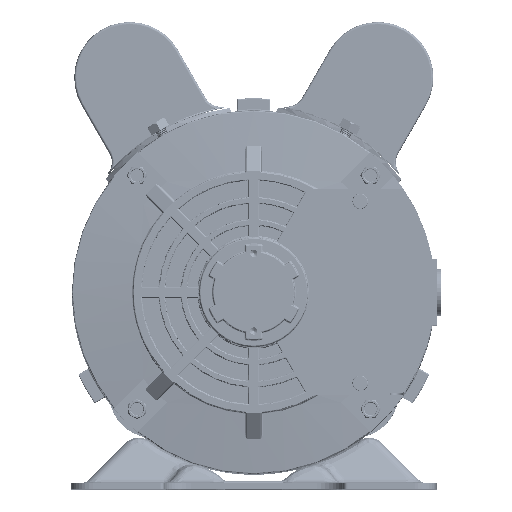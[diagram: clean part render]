
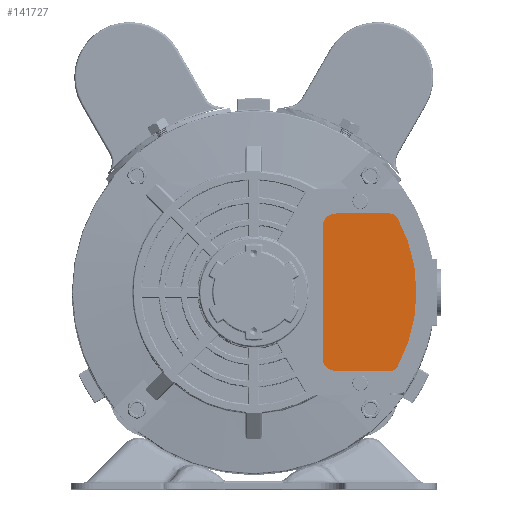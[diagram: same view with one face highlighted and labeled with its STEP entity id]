
A CAD part, top view. The second image highlights one B-rep face of the part: STEP entity #141727.
In plain terms, the highlighted planar face has unit normal (0, 0, 1).
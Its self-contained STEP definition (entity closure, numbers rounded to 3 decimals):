
#1089 = DIRECTION ( 'NONE',  ( 0., -1., 0. ) ) ;
#1537 = CARTESIAN_POINT ( 'NONE',  ( 2.345, -38.899, 113.2 ) ) ;
#3224 = FACE_OUTER_BOUND ( 'NONE', #71267, .T. ) ;
#5866 = AXIS2_PLACEMENT_3D ( 'NONE', #81454, #136127, #13421 ) ;
#13421 = DIRECTION ( 'NONE',  ( 0., -1., 0. ) ) ;
#18088 = LINE ( 'NONE', #72706, #154235 ) ;
#20141 = CIRCLE ( 'NONE', #120261, 70. ) ;
#23159 = CARTESIAN_POINT ( 'NONE',  ( 2.345, -44.899, 113.2 ) ) ;
#26403 = ORIENTED_EDGE ( 'NONE', *, *, #88698, .T. ) ;
#29584 = CARTESIAN_POINT ( 'NONE',  ( 2.345, 26.101, 113.2 ) ) ;
#31638 = CARTESIAN_POINT ( 'NONE',  ( 32.723, -40.899, 113.2 ) ) ;
#38695 = DIRECTION ( 'NONE',  ( 0., -1., 0. ) ) ;
#44439 = DIRECTION ( 'NONE',  ( 1., 0., 0. ) ) ;
#50807 = ORIENTED_EDGE ( 'NONE', *, *, #154609, .T. ) ;
#52661 = CIRCLE ( 'NONE', #152795, 6. ) ;
#56391 = VECTOR ( 'NONE', #84206, 1000. ) ;
#57868 = PLANE ( 'NONE',  #155817 ) ;
#59806 = VERTEX_POINT ( 'NONE', #90246 ) ;
#60726 = CARTESIAN_POINT ( 'NONE',  ( 8.345, -38.899, 113.2 ) ) ;
#69143 = CIRCLE ( 'NONE', #169259, 4. ) ;
#69186 = CARTESIAN_POINT ( 'NONE',  ( 8.345, 20.101, 113.2 ) ) ;
#69314 = AXIS2_PLACEMENT_3D ( 'NONE', #60726, #115379, #169969 ) ;
#71267 = EDGE_LOOP ( 'NONE', ( #26403, #79006, #78004, #156254, #135736, #74582, #135364, #50807 ) ) ;
#72706 = CARTESIAN_POINT ( 'NONE',  ( 35.055, 26.101, 113.2 ) ) ;
#73080 = VERTEX_POINT ( 'NONE', #123575 ) ;
#74582 = ORIENTED_EDGE ( 'NONE', *, *, #99331, .T. ) ;
#77781 = DIRECTION ( 'NONE',  ( 1., 0., 0. ) ) ;
#78004 = ORIENTED_EDGE ( 'NONE', *, *, #114159, .T. ) ;
#79006 = ORIENTED_EDGE ( 'NONE', *, *, #97005, .T. ) ;
#81454 = CARTESIAN_POINT ( 'NONE',  ( 32.723, 22.101, 113.2 ) ) ;
#82353 = CARTESIAN_POINT ( 'NONE',  ( 8.345, -44.899, 113.2 ) ) ;
#83062 = CIRCLE ( 'NONE', #5866, 4. ) ;
#84206 = DIRECTION ( 'NONE',  ( 0., -1., 0. ) ) ;
#84969 = EDGE_CURVE ( 'NONE', #73080, #160115, #152331, .T. ) ;
#86267 = DIRECTION ( 'NONE',  ( 0., 0., 1. ) ) ;
#88698 = EDGE_CURVE ( 'NONE', #171841, #113087, #145886, .T. ) ;
#90246 = CARTESIAN_POINT ( 'NONE',  ( 36.238, -42.809, 113.2 ) ) ;
#91219 = EDGE_CURVE ( 'NONE', #103861, #97186, #18088, .T. ) ;
#97005 = EDGE_CURVE ( 'NONE', #113087, #59806, #69143, .T. ) ;
#97186 = VERTEX_POINT ( 'NONE', #120235 ) ;
#99331 = EDGE_CURVE ( 'NONE', #97186, #73080, #52661, .T. ) ;
#103861 = VERTEX_POINT ( 'NONE', #143051 ) ;
#106776 = CARTESIAN_POINT ( 'NONE',  ( -25.275, -9.399, 113.2 ) ) ;
#112539 = CARTESIAN_POINT ( 'NONE',  ( -25.275, -9.399, 113.2 ) ) ;
#113087 = VERTEX_POINT ( 'NONE', #176586 ) ;
#114159 = EDGE_CURVE ( 'NONE', #59806, #167007, #20141, .T. ) ;
#115379 = DIRECTION ( 'NONE',  ( 0., 0., 1. ) ) ;
#116841 = CARTESIAN_POINT ( 'NONE',  ( 36.238, 24.01, 113.2 ) ) ;
#119840 = EDGE_CURVE ( 'NONE', #167007, #103861, #83062, .T. ) ;
#120235 = CARTESIAN_POINT ( 'NONE',  ( 8.345, 26.101, 113.2 ) ) ;
#120261 = AXIS2_PLACEMENT_3D ( 'NONE', #106776, #161396, #38695 ) ;
#123575 = CARTESIAN_POINT ( 'NONE',  ( 2.345, 20.101, 113.2 ) ) ;
#123839 = DIRECTION ( 'NONE',  ( 0., 0., 1. ) ) ;
#127353 = DIRECTION ( 'NONE',  ( -1., 0., 0. ) ) ;
#135364 = ORIENTED_EDGE ( 'NONE', *, *, #84969, .T. ) ;
#135736 = ORIENTED_EDGE ( 'NONE', *, *, #91219, .T. ) ;
#136127 = DIRECTION ( 'NONE',  ( 0., 0., 1. ) ) ;
#140903 = DIRECTION ( 'NONE',  ( 0., -1., 0. ) ) ;
#141727 = ADVANCED_FACE ( 'NONE', ( #3224 ), #57868, .T. ) ;
#143051 = CARTESIAN_POINT ( 'NONE',  ( 32.723, 26.101, 113.2 ) ) ;
#145886 = LINE ( 'NONE', #23159, #159712 ) ;
#146566 = CIRCLE ( 'NONE', #69314, 6. ) ;
#152331 = LINE ( 'NONE', #29584, #56391 ) ;
#152795 = AXIS2_PLACEMENT_3D ( 'NONE', #69186, #123839, #1089 ) ;
#154235 = VECTOR ( 'NONE', #127353, 1000. ) ;
#154609 = EDGE_CURVE ( 'NONE', #160115, #171841, #146566, .T. ) ;
#155817 = AXIS2_PLACEMENT_3D ( 'NONE', #112539, #167159, #44439 ) ;
#156254 = ORIENTED_EDGE ( 'NONE', *, *, #119840, .T. ) ;
#159712 = VECTOR ( 'NONE', #77781, 1000. ) ;
#160115 = VERTEX_POINT ( 'NONE', #1537 ) ;
#161396 = DIRECTION ( 'NONE',  ( 0., 0., 1. ) ) ;
#167007 = VERTEX_POINT ( 'NONE', #116841 ) ;
#167159 = DIRECTION ( 'NONE',  ( 0., 0., 1. ) ) ;
#169259 = AXIS2_PLACEMENT_3D ( 'NONE', #31638, #86267, #140903 ) ;
#169969 = DIRECTION ( 'NONE',  ( 0., -1., 0. ) ) ;
#171841 = VERTEX_POINT ( 'NONE', #82353 ) ;
#176586 = CARTESIAN_POINT ( 'NONE',  ( 32.723, -44.899, 113.2 ) ) ;
